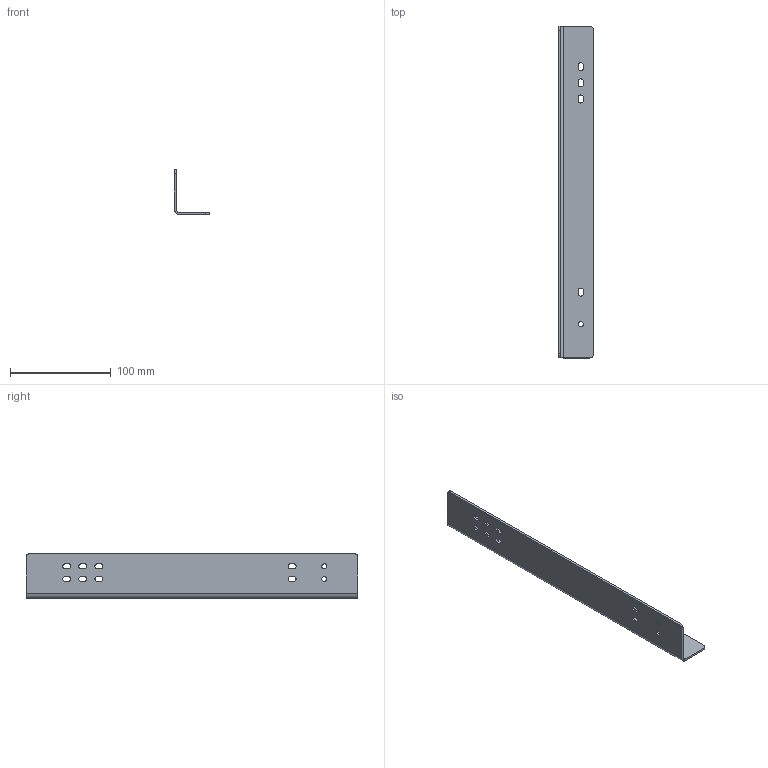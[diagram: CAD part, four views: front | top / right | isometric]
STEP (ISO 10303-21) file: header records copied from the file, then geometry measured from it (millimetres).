
FILE_DESCRIPTION(/* description */ (''),/* implementation_level */ '2;1');
FILE_NAME(/* name */ 'C:\Users\MelKon\Desktop\Winkel 1305319\WI_1305319-330_links.stp',/* time_stamp */ '2017-10-24T12:25:07+02:00',/* author */ ('MelKon'),/* organization */ (''),/* preprocessor_version */ 'ST-DEVELOPER v15.6',/* originating_system */ 'Autodesk Inventor 2015',/* authorisation */ '');
FILE_SCHEMA (('AUTOMOTIVE_DESIGN { 1 0 10303 214 3 1 1 }'));
Length unit declared in the file: millimetre
Products named in the file (1): WI_1305319-330_links
Bounding box: 35 x 330 x 44.7 mm (x, y, z)
Volume: 49172.4 mm3; surface area: 51397.8 mm2
Topology: 1 solids, 1 shells, 65 faces, 189 edges, 126 vertices
Faces by surface type: cylinder 33, plane 32
Full cylindrical faces by diameter (mm): 5 x3
Entity records: 2238 total; most frequent: DIRECTION 384, CARTESIAN_POINT 378, ORIENTED_EDGE 372, EDGE_CURVE 186, AXIS2_PLACEMENT_3D 132, VERTEX_POINT 126, LINE 120, VECTOR 120
